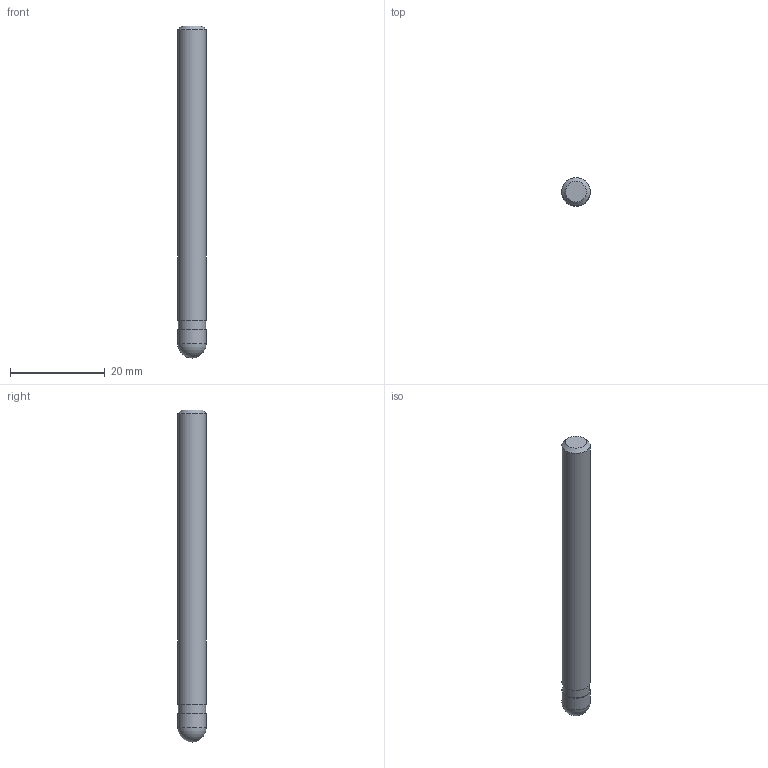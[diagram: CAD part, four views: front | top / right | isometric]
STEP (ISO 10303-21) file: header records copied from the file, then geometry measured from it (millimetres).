
FILE_DESCRIPTION((''),'2;1');
FILE_NAME('C:\Users\nsx150\AppData\Local\Temp\Mastercam 2021\ARV7HD45SN\TEMP.step','2023-06-13T16:39:40',(''),(''),'STEP Write','Mastercam 2021 ... CNC Software, Inc.','');
FILE_SCHEMA(('AUTOMOTIVE_DESIGN'));
Length unit declared in the file: millimetre
Products named in the file (1): None
Bounding box: 6 x 6 x 70 mm (x, y, z)
Volume: 1939.9 mm3; surface area: 1392.7 mm2
Topology: 2 solids, 2 shells, 9 faces, 13 edges, 8 vertices
Faces by surface type: plane 4, cylinder 3, sphere 1, cone 1
Full cylindrical faces by diameter (mm): 5.7 x1, 6 x2
Entity records: 211 total; most frequent: DIRECTION 36, CARTESIAN_POINT 25, AXIS2_PLACEMENT_3D 18, ORIENTED_EDGE 14, EDGE_LOOP 14, STYLED_ITEM 12, ADVANCED_FACE 9, FACE_BOUND 8
